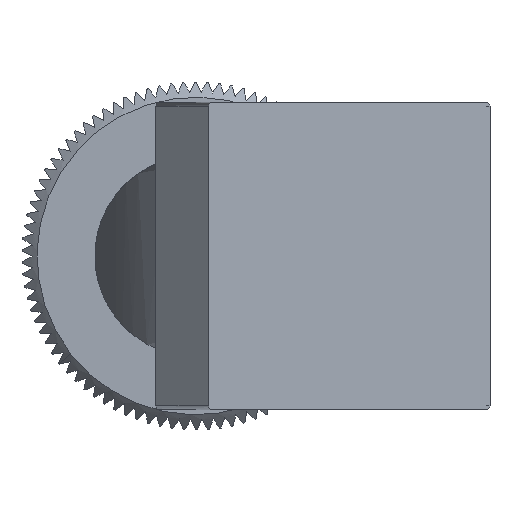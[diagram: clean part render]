
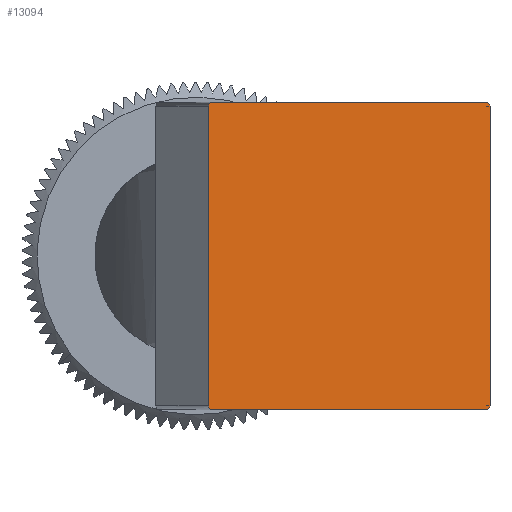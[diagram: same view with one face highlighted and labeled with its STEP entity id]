
A CAD part, left-side view. The second image highlights one B-rep face of the part: STEP entity #13094.
In plain terms, the highlighted planar face has unit normal (-0.998, -0.07, 0).
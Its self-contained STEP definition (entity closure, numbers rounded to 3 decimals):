
#463 = FACE_OUTER_BOUND ( 'NONE', #25856, .T. ) ;
#2393 = CARTESIAN_POINT ( 'NONE',  ( 0.828, -16.022, -12.2 ) ) ;
#2673 = CARTESIAN_POINT ( 'NONE',  ( 0.838, -16.173, 0. ) ) ;
#2984 = CARTESIAN_POINT ( 'NONE',  ( 0.057, -5., -12.05 ) ) ;
#3012 = EDGE_CURVE ( 'NONE', #6316, #6071, #3360, .T. ) ;
#3191 = CARTESIAN_POINT ( 'NONE',  ( 0.834, -16.11, 0. ) ) ;
#3360 = LINE ( 'NONE', #19410, #6053 ) ;
#3818 = VECTOR ( 'NONE', #34886, 1000. ) ;
#5095 = VERTEX_POINT ( 'NONE', #40434 ) ;
#5951 = CARTESIAN_POINT ( 'NONE',  ( 0.067, -5.15, -12.05 ) ) ;
#6003 = CIRCLE ( 'NONE', #9999, 0.15 ) ;
#6053 = VECTOR ( 'NONE', #15947, 1000. ) ;
#6071 = VERTEX_POINT ( 'NONE', #23382 ) ;
#6316 = VERTEX_POINT ( 'NONE', #24436 ) ;
#7290 = CARTESIAN_POINT ( 'NONE',  ( 0.057, -5., 0. ) ) ;
#8620 = AXIS2_PLACEMENT_3D ( 'NONE', #39154, #22323, #25749 ) ;
#8687 = LINE ( 'NONE', #41722, #9775 ) ;
#9425 = DIRECTION ( 'NONE',  ( 0.07, -0.998, 0. ) ) ;
#9775 = VECTOR ( 'NONE', #28295, 1000. ) ;
#9794 = VERTEX_POINT ( 'NONE', #18872 ) ;
#9934 = EDGE_CURVE ( 'NONE', #5095, #38776, #37065, .T. ) ;
#9973 = CARTESIAN_POINT ( 'NONE',  ( 0.838, -16.173, -0.15 ) ) ;
#9999 = AXIS2_PLACEMENT_3D ( 'NONE', #5951, #26512, #9425 ) ;
#10776 = EDGE_CURVE ( 'NONE', #29552, #9794, #15405, .T. ) ;
#13094 = ADVANCED_FACE ( 'NONE', ( #463 ), #15078, .T. ) ;
#13411 = VERTEX_POINT ( 'NONE', #14021 ) ;
#14021 = CARTESIAN_POINT ( 'NONE',  ( 0.067, -5.15, -12.2 ) ) ;
#15078 = PLANE ( 'NONE',  #8620 ) ;
#15405 =( BOUNDED_CURVE ( )  B_SPLINE_CURVE ( 3, ( #2393, #40545, #40390, #44006 ),
 .UNSPECIFIED., .F., .T. ) 
 B_SPLINE_CURVE_WITH_KNOTS ( ( 4, 4 ),
 ( 4.712, 6.283 ),
 .UNSPECIFIED. ) 
 CURVE ( )  GEOMETRIC_REPRESENTATION_ITEM ( )  RATIONAL_B_SPLINE_CURVE ( ( 1., 0.805, 0.805, 1. ) ) 
 REPRESENTATION_ITEM ( '' )  );
#15947 = DIRECTION ( 'NONE',  ( -0.07, 0.998, 0. ) ) ;
#18872 = CARTESIAN_POINT ( 'NONE',  ( 0.838, -16.173, -12.05 ) ) ;
#19410 = CARTESIAN_POINT ( 'NONE',  ( 0.447, -10.586, 0. ) ) ;
#19527 = CARTESIAN_POINT ( 'NONE',  ( 0.838, -16.173, -0.15 ) ) ;
#19541 = EDGE_CURVE ( 'NONE', #6071, #5095, #39701, .T. ) ;
#20739 = ORIENTED_EDGE ( 'NONE', *, *, #19541, .T. ) ;
#22323 = DIRECTION ( 'NONE',  ( -0.998, -0.07, 0. ) ) ;
#22337 = VECTOR ( 'NONE', #43388, 1000. ) ;
#22644 = DIRECTION ( 'NONE',  ( 0.07, -0.998, 0. ) ) ;
#23382 = CARTESIAN_POINT ( 'NONE',  ( 0.067, -5.15, 0. ) ) ;
#23587 = AXIS2_PLACEMENT_3D ( 'NONE', #26234, #25935, #22644 ) ;
#24066 = CARTESIAN_POINT ( 'NONE',  ( 0.828, -16.022, 0. ) ) ;
#24406 = ORIENTED_EDGE ( 'NONE', *, *, #39634, .T. ) ;
#24436 = CARTESIAN_POINT ( 'NONE',  ( 0.828, -16.022, 0. ) ) ;
#24587 =( BOUNDED_CURVE ( )  B_SPLINE_CURVE ( 3, ( #9973, #41205, #3191, #24066 ),
 .UNSPECIFIED., .F., .F. ) 
 B_SPLINE_CURVE_WITH_KNOTS ( ( 4, 4 ),
 ( 0., 1.571 ),
 .UNSPECIFIED. ) 
 CURVE ( )  GEOMETRIC_REPRESENTATION_ITEM ( )  RATIONAL_B_SPLINE_CURVE ( ( 1., 0.805, 0.805, 1. ) ) 
 REPRESENTATION_ITEM ( '' )  );
#25065 = EDGE_CURVE ( 'NONE', #42950, #9794, #44393, .T. ) ;
#25749 = DIRECTION ( 'NONE',  ( 0.07, -0.998, 0. ) ) ;
#25789 = ORIENTED_EDGE ( 'NONE', *, *, #9934, .T. ) ;
#25856 = EDGE_LOOP ( 'NONE', ( #35321, #20739, #25789, #40717, #32215, #44371, #43697, #24406 ) ) ;
#25935 = DIRECTION ( 'NONE',  ( -0.998, -0.07, 0. ) ) ;
#26234 = CARTESIAN_POINT ( 'NONE',  ( 0.067, -5.15, -0.15 ) ) ;
#26512 = DIRECTION ( 'NONE',  ( -0.998, -0.07, 0. ) ) ;
#27653 = EDGE_CURVE ( 'NONE', #38776, #13411, #6003, .T. ) ;
#28049 = EDGE_CURVE ( 'NONE', #13411, #29552, #8687, .T. ) ;
#28295 = DIRECTION ( 'NONE',  ( 0.07, -0.998, 0. ) ) ;
#29552 = VERTEX_POINT ( 'NONE', #42021 ) ;
#32215 = ORIENTED_EDGE ( 'NONE', *, *, #28049, .T. ) ;
#34886 = DIRECTION ( 'NONE',  ( 0., 0., -1. ) ) ;
#35321 = ORIENTED_EDGE ( 'NONE', *, *, #3012, .T. ) ;
#37065 = LINE ( 'NONE', #7290, #3818 ) ;
#38776 = VERTEX_POINT ( 'NONE', #2984 ) ;
#39154 = CARTESIAN_POINT ( 'NONE',  ( 0.447, -10.586, 0. ) ) ;
#39634 = EDGE_CURVE ( 'NONE', #42950, #6316, #24587, .T. ) ;
#39701 = CIRCLE ( 'NONE', #23587, 0.15 ) ;
#40390 = CARTESIAN_POINT ( 'NONE',  ( 0.838, -16.173, -12.138 ) ) ;
#40434 = CARTESIAN_POINT ( 'NONE',  ( 0.057, -5., -0.15 ) ) ;
#40545 = CARTESIAN_POINT ( 'NONE',  ( 0.834, -16.11, -12.2 ) ) ;
#40717 = ORIENTED_EDGE ( 'NONE', *, *, #27653, .T. ) ;
#41205 = CARTESIAN_POINT ( 'NONE',  ( 0.838, -16.173, -0.062 ) ) ;
#41722 = CARTESIAN_POINT ( 'NONE',  ( 0.447, -10.586, -12.2 ) ) ;
#42021 = CARTESIAN_POINT ( 'NONE',  ( 0.828, -16.022, -12.2 ) ) ;
#42950 = VERTEX_POINT ( 'NONE', #19527 ) ;
#43388 = DIRECTION ( 'NONE',  ( 0., 0., -1. ) ) ;
#43697 = ORIENTED_EDGE ( 'NONE', *, *, #25065, .F. ) ;
#44006 = CARTESIAN_POINT ( 'NONE',  ( 0.838, -16.173, -12.05 ) ) ;
#44371 = ORIENTED_EDGE ( 'NONE', *, *, #10776, .T. ) ;
#44393 = LINE ( 'NONE', #2673, #22337 ) ;
